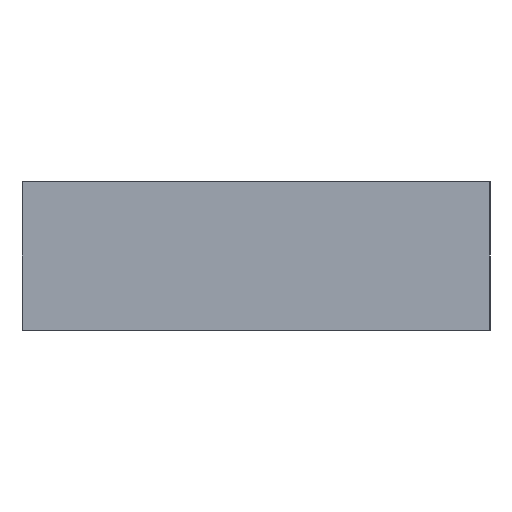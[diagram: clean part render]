
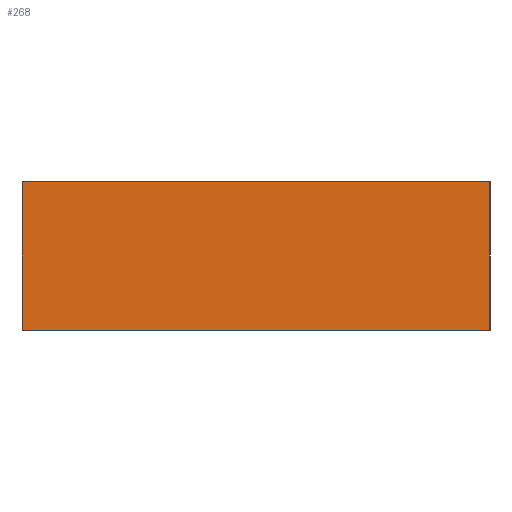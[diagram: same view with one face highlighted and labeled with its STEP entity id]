
A CAD part, left-side view. The second image highlights one B-rep face of the part: STEP entity #268.
In plain terms, the highlighted free-form (B-spline) face has degree [1, 1] with [2, 2] control points.
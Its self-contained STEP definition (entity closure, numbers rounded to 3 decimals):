
#268=ADVANCED_FACE('',(#322),#1002,.T.);
#322=FACE_OUTER_BOUND('',#376,.T.);
#376=EDGE_LOOP('',(#484,#485,#486,#487));
#484=ORIENTED_EDGE('',*,*,#741,.F.);
#485=ORIENTED_EDGE('',*,*,#794,.F.);
#486=ORIENTED_EDGE('',*,*,#795,.T.);
#487=ORIENTED_EDGE('',*,*,#796,.T.);
#741=EDGE_CURVE('',#897,#898,#1739,.T.);
#794=EDGE_CURVE('',#949,#897,#1792,.T.);
#795=EDGE_CURVE('',#949,#950,#1793,.T.);
#796=EDGE_CURVE('',#950,#898,#1794,.T.);
#897=VERTEX_POINT('',#1583);
#898=VERTEX_POINT('',#1584);
#949=VERTEX_POINT('',#1635);
#950=VERTEX_POINT('',#1636);
#1002=B_SPLINE_SURFACE_WITH_KNOTS('',1,1,((#1374,#1375),(#1376,#1377)),.UNSPECIFIED.,
.F.,.F.,.F.,(2,2),(2,2),(-63.,0.),(0.,20.),.UNSPECIFIED.);
#1056=CARTESIAN_POINT('',(21.,87.,0.));
#1057=CARTESIAN_POINT('',(21.,150.,0.));
#1162=CARTESIAN_POINT('',(21.,87.,20.));
#1163=CARTESIAN_POINT('',(21.,87.,0.));
#1164=CARTESIAN_POINT('',(21.,87.,20.));
#1165=CARTESIAN_POINT('',(21.,150.,20.));
#1166=CARTESIAN_POINT('',(21.,150.,20.));
#1167=CARTESIAN_POINT('',(21.,150.,0.));
#1374=CARTESIAN_POINT('',(21.,150.,0.));
#1375=CARTESIAN_POINT('',(21.,150.,20.));
#1376=CARTESIAN_POINT('',(21.,87.,0.));
#1377=CARTESIAN_POINT('',(21.,87.,20.));
#1583=CARTESIAN_POINT('',(21.,87.,0.));
#1584=CARTESIAN_POINT('',(21.,150.,0.));
#1635=CARTESIAN_POINT('',(21.,87.,20.));
#1636=CARTESIAN_POINT('',(21.,150.,20.));
#1739=B_SPLINE_CURVE_WITH_KNOTS('',1,(#1056,#1057),.UNSPECIFIED.,.F.,.F.,
(2,2),(0.,63.),.UNSPECIFIED.);
#1792=B_SPLINE_CURVE_WITH_KNOTS('',1,(#1162,#1163),.UNSPECIFIED.,.F.,.F.,
(2,2),(-20.,0.),.UNSPECIFIED.);
#1793=B_SPLINE_CURVE_WITH_KNOTS('',1,(#1164,#1165),.UNSPECIFIED.,.F.,.F.,
(2,2),(0.,63.),.UNSPECIFIED.);
#1794=B_SPLINE_CURVE_WITH_KNOTS('',1,(#1166,#1167),.UNSPECIFIED.,.F.,.F.,
(2,2),(-20.,0.),.UNSPECIFIED.);
